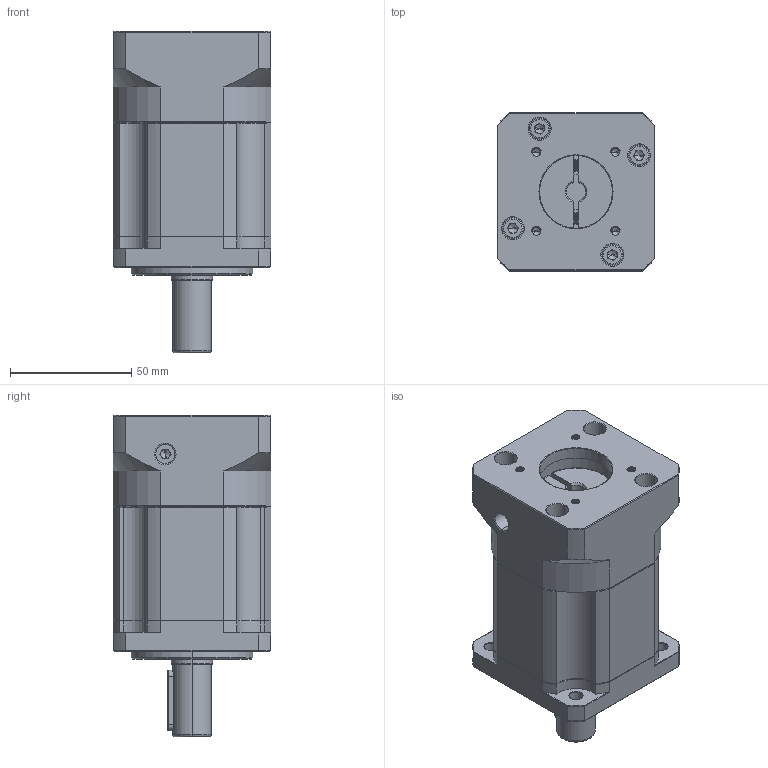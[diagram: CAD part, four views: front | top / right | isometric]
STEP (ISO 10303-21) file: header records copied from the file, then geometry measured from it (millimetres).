
FILE_DESCRIPTION (( 'STEP AP214' ), '1' );
FILE_NAME ('ZB060-D16-L2-P2-8-30-46-M4.step', '2023-08-16T07:07:06', ( '' ), ( '' ), 'SwSTEP 2.0', 'SolidWorks 2016', '' );
FILE_SCHEMA (( 'AUTOMOTIVE_DESIGN' ));
Length unit declared in the file: millimetre
Products named in the file (1): ZB060-D16-L2-P2-8-30-46-M4
Bounding box: 65 x 65 x 132.5 mm (x, y, z)
Volume: 338106.2 mm3; surface area: 59093.2 mm2
Topology: 6 solids, 6 shells, 2154 faces, 5800 edges, 3734 vertices
Faces by surface type: plane 1059, bspline 397, cylinder 381, cone 283, torus 34
Entity records: 114844 total; most frequent: CARTESIAN_POINT 40229, ORIENTED_EDGE 11540, DIRECTION 9090, EDGE_CURVE 5770, VERTEX_POINT 3734, VECTOR 3636, LINE 3636, AXIS2_PLACEMENT_3D 2727
